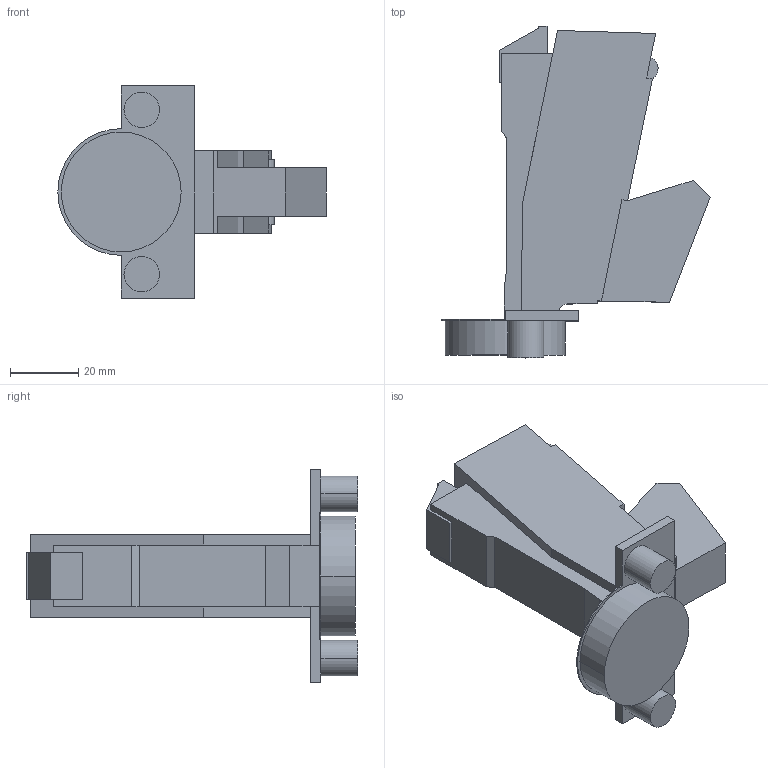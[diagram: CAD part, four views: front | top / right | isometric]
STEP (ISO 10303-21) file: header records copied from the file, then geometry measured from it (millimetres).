
FILE_DESCRIPTION (( 'STEP AP214' ), '1' );
FILE_NAME ('Scharnier TS Click-on 160° S_BB, K03_Dübel.step', '2010-12-13T10:16:03', ( 'grass' ), ( '' ), 'SwSTEP 2.0', 'SolidWorks 2010', '' );
FILE_SCHEMA (( 'AUTOMOTIVE_DESIGN' ));
Length unit declared in the file: millimetre
Products named in the file (1): Scharnier TS Click-on 160° S_BB, K03_Dübel
Bounding box: 78.34 x 96.89 x 62 mm (x, y, z)
Volume: 93245.9 mm3; surface area: 19335.1 mm2
Topology: 1 solids, 1 shells, 66 faces, 173 edges, 114 vertices
Faces by surface type: plane 53, cylinder 13
Entity records: 2045 total; most frequent: CARTESIAN_POINT 354, ORIENTED_EDGE 346, DIRECTION 333, EDGE_CURVE 173, LINE 147, VECTOR 147, VERTEX_POINT 114, AXIS2_PLACEMENT_3D 93
